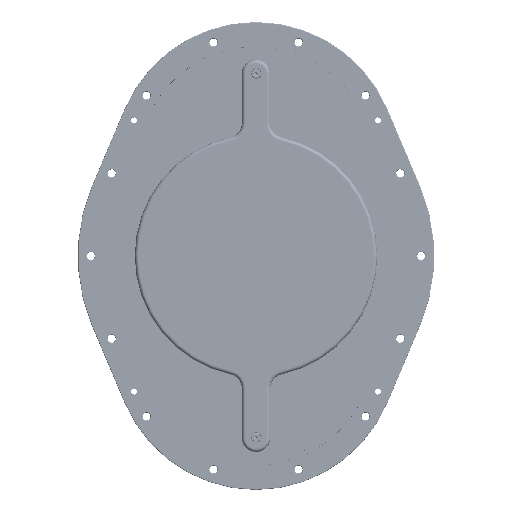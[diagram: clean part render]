
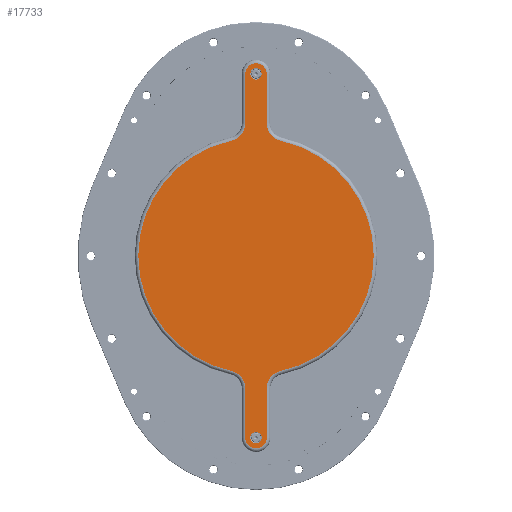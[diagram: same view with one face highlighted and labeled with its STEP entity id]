
A CAD part, top view. The second image highlights one B-rep face of the part: STEP entity #17733.
In plain terms, the highlighted planar face has unit normal (0, 0, 1).
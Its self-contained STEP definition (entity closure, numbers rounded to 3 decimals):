
#2959=LINE('',#104612,#5334);
#2960=LINE('',#104616,#5335);
#2961=LINE('',#104624,#5336);
#2962=LINE('',#104628,#5337);
#5334=VECTOR('',#58486,1.);
#5335=VECTOR('',#58489,1.);
#5336=VECTOR('',#58496,1.);
#5337=VECTOR('',#58499,1.);
#15197=FACE_BOUND('',#24477,.T.);
#15198=FACE_BOUND('',#24478,.T.);
#15199=FACE_BOUND('',#24479,.T.);
#17733=ADVANCED_FACE('BCT_REF_31832',(#15197,#15198,#15199),#18940,.F.);
#18940=PLANE('',#48643);
#24477=EDGE_LOOP('',(#33585));
#24478=EDGE_LOOP('',(#33586));
#24479=EDGE_LOOP('',(#33587,#33588,#33589,#33590,#33591,#33592,#33593,#33594,
#33595,#33596,#33597,#33598));
#33585=ORIENTED_EDGE('',*,*,#42817,.T.);
#33586=ORIENTED_EDGE('',*,*,#42818,.T.);
#33587=ORIENTED_EDGE('',*,*,#42819,.T.);
#33588=ORIENTED_EDGE('',*,*,#42820,.T.);
#33589=ORIENTED_EDGE('',*,*,#42821,.T.);
#33590=ORIENTED_EDGE('',*,*,#42822,.T.);
#33591=ORIENTED_EDGE('',*,*,#42823,.T.);
#33592=ORIENTED_EDGE('',*,*,#42824,.T.);
#33593=ORIENTED_EDGE('',*,*,#42825,.T.);
#33594=ORIENTED_EDGE('',*,*,#42826,.T.);
#33595=ORIENTED_EDGE('',*,*,#42827,.T.);
#33596=ORIENTED_EDGE('',*,*,#42828,.T.);
#33597=ORIENTED_EDGE('',*,*,#42829,.T.);
#33598=ORIENTED_EDGE('',*,*,#42830,.T.);
#38102=VERTEX_POINT('',#104604);
#38103=VERTEX_POINT('',#104606);
#38104=VERTEX_POINT('',#104608);
#38105=VERTEX_POINT('',#104609);
#38106=VERTEX_POINT('',#104611);
#38107=VERTEX_POINT('',#104613);
#38108=VERTEX_POINT('',#104615);
#38109=VERTEX_POINT('',#104617);
#38110=VERTEX_POINT('',#104619);
#38111=VERTEX_POINT('',#104621);
#38112=VERTEX_POINT('',#104623);
#38113=VERTEX_POINT('',#104625);
#38114=VERTEX_POINT('',#104627);
#38115=VERTEX_POINT('',#104629);
#42817=EDGE_CURVE('',#38102,#38102,#44794,.T.);
#42818=EDGE_CURVE('BCT_REF_31921',#38103,#38103,#44795,.T.);
#42819=EDGE_CURVE('',#38104,#38105,#44796,.T.);
#42820=EDGE_CURVE('',#38105,#38106,#44797,.T.);
#42821=EDGE_CURVE('',#38106,#38107,#2959,.T.);
#42822=EDGE_CURVE('',#38107,#38108,#44798,.T.);
#42823=EDGE_CURVE('',#38108,#38109,#2960,.T.);
#42824=EDGE_CURVE('',#38109,#38110,#44799,.T.);
#42825=EDGE_CURVE('',#38110,#38111,#44800,.T.);
#42826=EDGE_CURVE('',#38111,#38112,#44801,.T.);
#42827=EDGE_CURVE('',#38112,#38113,#2961,.T.);
#42828=EDGE_CURVE('',#38113,#38114,#44802,.T.);
#42829=EDGE_CURVE('',#38114,#38115,#2962,.T.);
#42830=EDGE_CURVE('',#38115,#38104,#44803,.T.);
#44794=CIRCLE('',#48633,8.);
#44795=CIRCLE('',#48634,8.);
#44796=CIRCLE('',#48635,165.);
#44797=CIRCLE('',#48636,25.);
#44798=CIRCLE('',#48637,15.);
#44799=CIRCLE('',#48638,25.);
#44800=CIRCLE('',#48639,165.);
#44801=CIRCLE('',#48640,25.);
#44802=CIRCLE('',#48641,15.);
#44803=CIRCLE('',#48642,25.);
#48633=AXIS2_PLACEMENT_3D('',#104603,#58478,#58479);
#48634=AXIS2_PLACEMENT_3D('',#104605,#58480,#58481);
#48635=AXIS2_PLACEMENT_3D('',#104607,#58482,#58483);
#48636=AXIS2_PLACEMENT_3D('',#104610,#58484,#58485);
#48637=AXIS2_PLACEMENT_3D('',#104614,#58487,#58488);
#48638=AXIS2_PLACEMENT_3D('',#104618,#58490,#58491);
#48639=AXIS2_PLACEMENT_3D('',#104620,#58492,#58493);
#48640=AXIS2_PLACEMENT_3D('',#104622,#58494,#58495);
#48641=AXIS2_PLACEMENT_3D('',#104626,#58497,#58498);
#48642=AXIS2_PLACEMENT_3D('',#104630,#58500,#58501);
#48643=AXIS2_PLACEMENT_3D('',#104631,#58502,#58503);
#58478=DIRECTION('',(0.,0.,-1.));
#58479=DIRECTION('',(-1.,0.,0.));
#58480=DIRECTION('',(0.,0.,-1.));
#58481=DIRECTION('',(-1.,0.,0.));
#58482=DIRECTION('',(0.,0.,1.));
#58483=DIRECTION('',(-1.,0.,0.));
#58484=DIRECTION('',(0.,0.,-1.));
#58485=DIRECTION('',(-1.,0.,0.));
#58486=DIRECTION('',(0.,-1.,0.));
#58487=DIRECTION('',(0.,0.,1.));
#58488=DIRECTION('',(-1.,0.,0.));
#58489=DIRECTION('',(0.,1.,0.));
#58490=DIRECTION('',(0.,0.,-1.));
#58491=DIRECTION('',(-1.,0.,0.));
#58492=DIRECTION('',(0.,0.,1.));
#58493=DIRECTION('',(-1.,0.,0.));
#58494=DIRECTION('',(0.,0.,-1.));
#58495=DIRECTION('',(-1.,0.,0.));
#58496=DIRECTION('',(0.,1.,0.));
#58497=DIRECTION('',(0.,0.,1.));
#58498=DIRECTION('',(-1.,0.,0.));
#58499=DIRECTION('',(0.,-1.,0.));
#58500=DIRECTION('',(0.,0.,-1.));
#58501=DIRECTION('',(-1.,0.,0.));
#58502=DIRECTION('',(0.,0.,-1.));
#58503=DIRECTION('',(-1.,0.,0.));
#104603=CARTESIAN_POINT('',(0.,-255.,30.));
#104604=CARTESIAN_POINT('',(-8.,-255.,30.));
#104605=CARTESIAN_POINT('',(0.,255.,30.));
#104606=CARTESIAN_POINT('',(-8.,255.,30.));
#104607=CARTESIAN_POINT('',(0.,0.,30.));
#104608=CARTESIAN_POINT('',(-34.737,161.302,30.));
#104609=CARTESIAN_POINT('',(-34.737,-161.302,30.));
#104610=CARTESIAN_POINT('',(-40.,-185.742,30.));
#104611=CARTESIAN_POINT('',(-15.,-185.742,30.));
#104612=CARTESIAN_POINT('',(-15.,0.,30.));
#104613=CARTESIAN_POINT('',(-15.,-255.,30.));
#104614=CARTESIAN_POINT('',(0.,-255.,30.));
#104615=CARTESIAN_POINT('',(15.,-255.,30.));
#104616=CARTESIAN_POINT('',(15.,0.,30.));
#104617=CARTESIAN_POINT('',(15.,-185.742,30.));
#104618=CARTESIAN_POINT('',(40.,-185.742,30.));
#104619=CARTESIAN_POINT('',(34.737,-161.302,30.));
#104620=CARTESIAN_POINT('',(0.,0.,30.));
#104621=CARTESIAN_POINT('',(34.737,161.302,30.));
#104622=CARTESIAN_POINT('',(40.,185.742,30.));
#104623=CARTESIAN_POINT('',(15.,185.742,30.));
#104624=CARTESIAN_POINT('',(15.,0.,30.));
#104625=CARTESIAN_POINT('',(15.,255.,30.));
#104626=CARTESIAN_POINT('',(0.,255.,30.));
#104627=CARTESIAN_POINT('',(-15.,255.,30.));
#104628=CARTESIAN_POINT('',(-15.,0.,30.));
#104629=CARTESIAN_POINT('',(-15.,185.742,30.));
#104630=CARTESIAN_POINT('',(-40.,185.742,30.));
#104631=CARTESIAN_POINT('',(0.,0.,30.));
